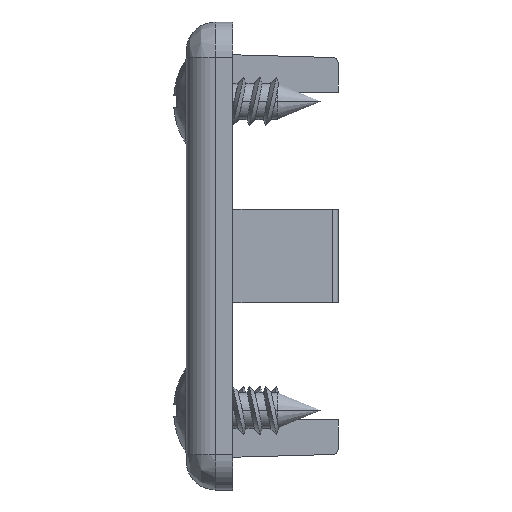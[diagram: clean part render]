
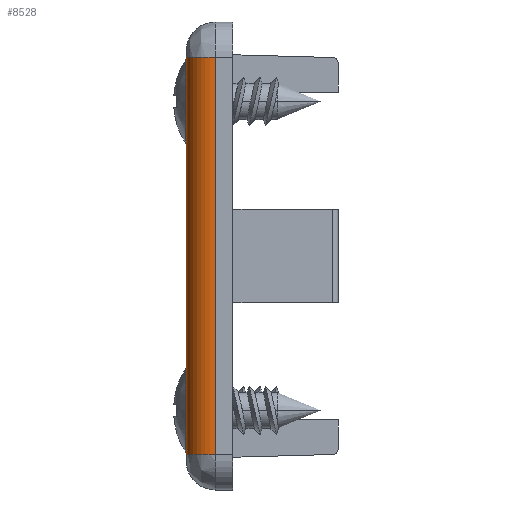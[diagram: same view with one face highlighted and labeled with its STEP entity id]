
A CAD part, left-side view. The second image highlights one B-rep face of the part: STEP entity #8528.
In plain terms, the highlighted cylindrical face has radius 2.5 mm (diameter 5 mm), a partial arc.
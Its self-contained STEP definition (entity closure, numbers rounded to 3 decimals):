
#609 = DIRECTION ( 'NONE',  ( -1., 0., 0. ) ) ;
#782 = CARTESIAN_POINT ( 'NONE',  ( -37.5, 1.5, 17. ) ) ;
#1359 = VECTOR ( 'NONE', #12989, 1000. ) ;
#1893 = CARTESIAN_POINT ( 'NONE',  ( -37.5, 1.5, 20. ) ) ;
#1953 = CARTESIAN_POINT ( 'NONE',  ( -40., 1.5, 20. ) ) ;
#2125 = DIRECTION ( 'NONE',  ( -1., 0., 0. ) ) ;
#2274 = CIRCLE ( 'NONE', #8548, 2.5 ) ;
#2935 = LINE ( 'NONE', #1953, #17932 ) ;
#3192 = DIRECTION ( 'NONE',  ( 0., 0., 1. ) ) ;
#5168 = VERTEX_POINT ( 'NONE', #15928 ) ;
#5309 = FACE_OUTER_BOUND ( 'NONE', #7984, .T. ) ;
#5574 = DIRECTION ( 'NONE',  ( 0., 0., 1. ) ) ;
#6254 = ORIENTED_EDGE ( 'NONE', *, *, #14113, .T. ) ;
#6552 = ORIENTED_EDGE ( 'NONE', *, *, #10289, .F. ) ;
#7319 = CYLINDRICAL_SURFACE ( 'NONE', #12802, 2.5 ) ;
#7571 = CARTESIAN_POINT ( 'NONE',  ( -37.5, 4., -17. ) ) ;
#7626 = VERTEX_POINT ( 'NONE', #12336 ) ;
#7984 = EDGE_LOOP ( 'NONE', ( #17066, #6254, #10580, #6552 ) ) ;
#8382 = LINE ( 'NONE', #17431, #1359 ) ;
#8528 = ADVANCED_FACE ( 'NONE', ( #5309 ), #7319, .T. ) ;
#8548 = AXIS2_PLACEMENT_3D ( 'NONE', #782, #10636, #2125 ) ;
#10182 = EDGE_CURVE ( 'NONE', #11889, #7626, #17985, .T. ) ;
#10289 = EDGE_CURVE ( 'NONE', #11889, #10430, #8382, .T. ) ;
#10430 = VERTEX_POINT ( 'NONE', #14995 ) ;
#10454 = DIRECTION ( 'NONE',  ( 0., 0., 1. ) ) ;
#10580 = ORIENTED_EDGE ( 'NONE', *, *, #15080, .T. ) ;
#10636 = DIRECTION ( 'NONE',  ( 0., 0., -1. ) ) ;
#11889 = VERTEX_POINT ( 'NONE', #7571 ) ;
#12336 = CARTESIAN_POINT ( 'NONE',  ( -40., 1.5, -17. ) ) ;
#12802 = AXIS2_PLACEMENT_3D ( 'NONE', #1893, #3192, #609 ) ;
#12989 = DIRECTION ( 'NONE',  ( 0., 0., 1. ) ) ;
#14113 = EDGE_CURVE ( 'NONE', #7626, #5168, #2935, .T. ) ;
#14318 = CARTESIAN_POINT ( 'NONE',  ( -37.5, 1.5, -17. ) ) ;
#14995 = CARTESIAN_POINT ( 'NONE',  ( -37.5, 4., 17. ) ) ;
#15026 = AXIS2_PLACEMENT_3D ( 'NONE', #14318, #5574, #15839 ) ;
#15080 = EDGE_CURVE ( 'NONE', #5168, #10430, #2274, .T. ) ;
#15839 = DIRECTION ( 'NONE',  ( -1., 0., 0. ) ) ;
#15928 = CARTESIAN_POINT ( 'NONE',  ( -40., 1.5, 17. ) ) ;
#17066 = ORIENTED_EDGE ( 'NONE', *, *, #10182, .T. ) ;
#17431 = CARTESIAN_POINT ( 'NONE',  ( -37.5, 4., 20. ) ) ;
#17932 = VECTOR ( 'NONE', #10454, 1000. ) ;
#17985 = CIRCLE ( 'NONE', #15026, 2.5 ) ;
